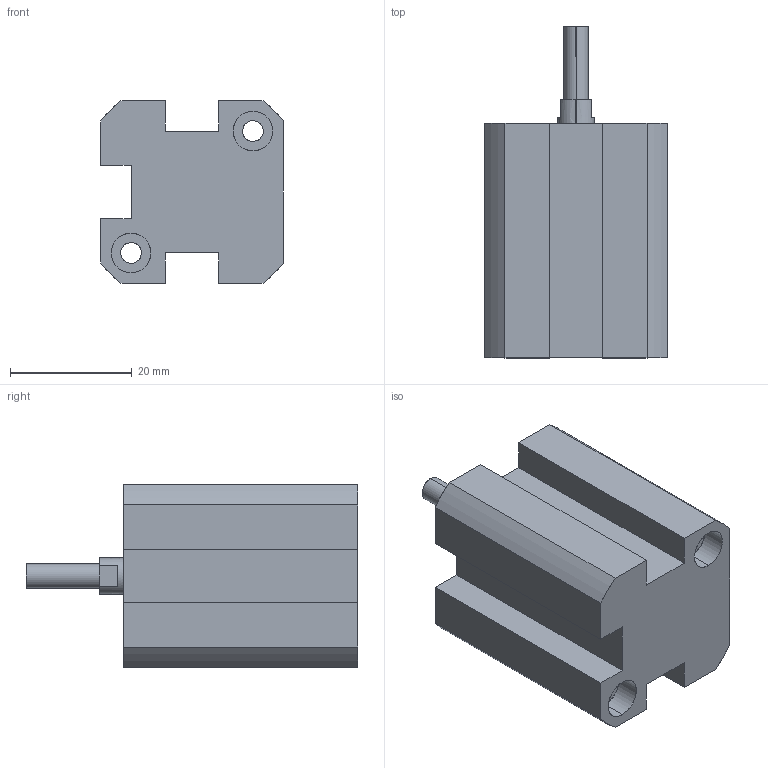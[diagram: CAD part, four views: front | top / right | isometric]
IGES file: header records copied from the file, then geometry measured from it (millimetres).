
Start section: SolidWorks IGES file using analytic representation for surfaces
Global section: file name: C:\Users\Toshiba\Desktop\XG#M2-16-10.IGS; native system: SolidWorks 2014; preprocessor: SolidWorks 2014; author: Toshiba; date: 160524.101012; units: millimetre
Bounding box: 30 x 54.5 x 30 mm (x, y, z)
Surface area: 8655.5 mm2 (no closed solid volume)
Topology: 0 solids, 0 shells, 76 faces, 1195 edges, 1191 vertices
Faces by surface type: revolution 43, bspline 33
